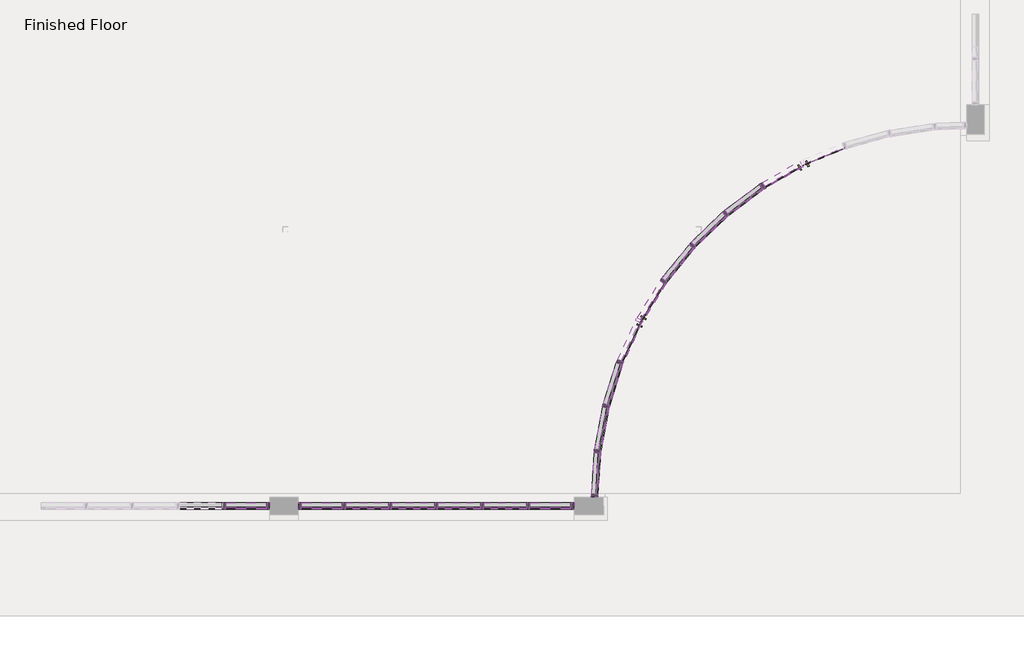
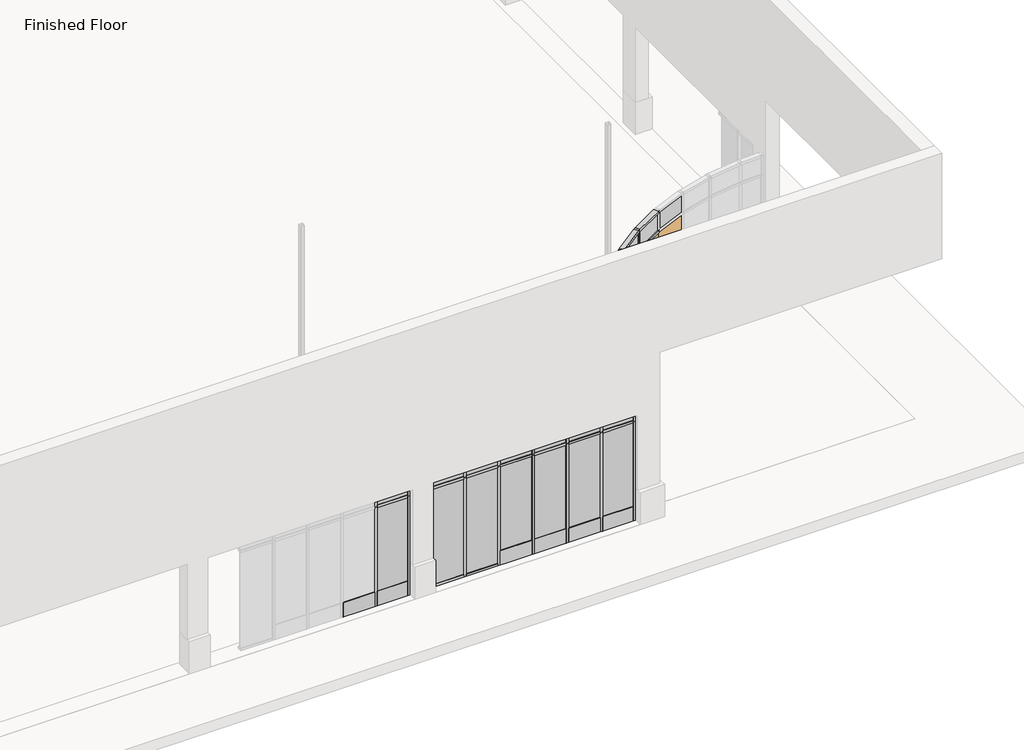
# One storey, part 3 of 6: 80 members, 30 plates, 4 doors.
"""IFC4 building model written with IfcOpenShell, lengths in millimetres."""

from ifc_helpers import new_model, si_unit, origin, place, context, project, spatial, transform, mapped, element, save
from components import curtain_wall_sgl_glass_curtain_wall_sgl_glass_1c17b042, curtain_wall_sgl_glass_curtain_wall_sgl_glass_0d6a1b13, member_d2e7e466, member_7db1855a, member_a397ac22, member_d702d02f, member_57980dff, member_b5e65c95, member_069002c8, member_a75f139a, member_8a16213d, member_a608d019, member_830eb86c, member_c5eeba41, member_bfce15ef, member_c839a1ff, member_1fc1b455, member_c17f1be2, member_ad567e07, member_6ad7a984, member_7c546d85, member_6e77e263, rectangular_mullion_tall_mullion_dc5872ae, rectangular_mullion_tall_mullion_643de06f, system_panel_glazed_00e77426, system_panel_glazed_d5ca8191, system_panel_glazed_a343adf7, system_panel_glazed_9d8b6f53, system_panel_glazed_2d85ec54, system_panel_glazed_0eb5479c, system_panel_glazed_0c1d7574, system_panel_glazed_f449fc8c, system_panel_glazed_61942ae4, system_panel_glazed_9254fb36

model = new_model("IFC4")

# Units and contexts
model_context = context("Model", 3, world=origin())
ifc_project = project(units=[si_unit("LENGTHUNIT", "METRE", prefix="MILLI")], contexts=[model_context])

# Site, building, storey
site = spatial("IfcSite", under=ifc_project)
building = spatial("IfcBuilding", under=site)
storey = spatial("IfcBuildingStorey", under=building, Name="Finished Floor", Elevation=0.0)

# Doors
placement = place(None, origin())
curtain_wall_sgl_glass_curtain_wall_sgl_glass_shape = curtain_wall_sgl_glass_curtain_wall_sgl_glass_1c17b042(model_context)
element("IfcDoor", 1, ObjectType="Curtain Wall Sgl Glass : Curtain Wall Sgl Glass", at=placement, inside=storey, context=model_context, shape_type="MappedRepresentation", body=[
    mapped(curtain_wall_sgl_glass_curtain_wall_sgl_glass_shape, transform((12205.5770222, -10167.6142626, 0.0), x_axis=(0.5285884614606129, 0.8488782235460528, 0.0), y_axis=(-0.8488782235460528, 0.5285884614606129, 0.0), z_axis=(0.0, 0.0, 1.0))),
])
element("IfcDoor", 2, ObjectType="Curtain Wall Sgl Glass : Curtain Wall Sgl Glass", at=placement, inside=storey, context=model_context, shape_type="MappedRepresentation", body=[
    mapped(curtain_wall_sgl_glass_curtain_wall_sgl_glass_shape, transform((15623.3358798, -7250.0903056, 0.0), x_axis=(0.9229809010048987, 0.38484575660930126, 0.0), y_axis=(-0.38484575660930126, 0.9229809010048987, 0.0), z_axis=(0.0, 0.0, 1.0))),
])
curtain_wall_sgl_glass_curtain_wall_sgl_glass_2_shape = curtain_wall_sgl_glass_curtain_wall_sgl_glass_0d6a1b13(model_context)
element("IfcDoor", 3, ObjectType="Curtain Wall Sgl Glass : Curtain Wall Sgl Glass", at=placement, inside=storey, context=model_context, shape_type="MappedRepresentation", body=[
    mapped(curtain_wall_sgl_glass_curtain_wall_sgl_glass_2_shape, transform((11787.050244, -10942.8089583, 0.0), x_axis=(-0.4197529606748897, -0.9076383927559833, 0.0), y_axis=(0.9076383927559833, -0.4197529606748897, 0.0), z_axis=(0.0, 0.0, 1.0))),
])
element("IfcDoor", 4, ObjectType="Curtain Wall Sgl Glass : Curtain Wall Sgl Glass", at=placement, inside=storey, context=model_context, shape_type="MappedRepresentation", body=[
    mapped(curtain_wall_sgl_glass_curtain_wall_sgl_glass_2_shape, transform((14832.7491415, -7638.7599462, 0.0), x_axis=(-0.8684126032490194, -0.4958422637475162, 0.0), y_axis=(0.4958422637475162, -0.8684126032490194, 0.0), z_axis=(0.0, 0.0, 1.0))),
])

# Members
member_shape = member_d2e7e466(model_context)
element("IfcMember", 5, ObjectType="Rectangular Mullion : 2.5\" x 5\" rectangular", at=placement, inside=storey, context=model_context, shape_type="MappedRepresentation", body=[
    mapped(member_shape, transform((8881.2647279, -14230.7188057, 3048.0), x_axis=(0.0, 0.0, 1.0), y_axis=(0.0, 1.0, 0.0), z_axis=(-1.0, 0.0, 0.0))),
])
element("IfcMember", 6, ObjectType="Rectangular Mullion : 2.5\" x 5\" rectangular", at=placement, inside=storey, context=model_context, shape_type="MappedRepresentation", body=[
    mapped(member_shape, transform((7966.8647279, -14230.7188057, 3048.0), x_axis=(0.0, 0.0, 1.0), y_axis=(0.0, 1.0, 0.0), z_axis=(-1.0, 0.0, 0.0))),
])
element("IfcMember", 7, ObjectType="Rectangular Mullion : 2.5\" x 5\" rectangular", at=placement, inside=storey, context=model_context, shape_type="MappedRepresentation", body=[
    mapped(member_shape, transform((7052.4647279, -14230.7188057, 3048.0), x_axis=(0.0, 0.0, 1.0), y_axis=(0.0, 1.0, 0.0), z_axis=(-1.0, 0.0, 0.0))),
])
element("IfcMember", 8, ObjectType="Rectangular Mullion : 2.5\" x 5\" rectangular", at=placement, inside=storey, context=model_context, shape_type="MappedRepresentation", body=[
    mapped(member_shape, transform((6138.0647279, -14230.7188057, 3048.0), x_axis=(0.0, 0.0, 1.0), y_axis=(0.0, 1.0, 0.0), z_axis=(-1.0, 0.0, 0.0))),
])
member_2_shape = member_7db1855a(model_context)
element("IfcMember", 9, ObjectType="Rectangular Mullion : 2.5\" x 5\" rectangular", at=placement, inside=storey, context=model_context, shape_type="MappedRepresentation", body=[
    mapped(member_2_shape, transform((8881.2647279, -14230.7188057, 2813.05), x_axis=(0.0, 0.0, 1.0), y_axis=(0.0, 1.0, 0.0), z_axis=(-1.0, 0.0, 0.0))),
])
element("IfcMember", 10, ObjectType="Rectangular Mullion : 2.5\" x 5\" rectangular", at=placement, inside=storey, context=model_context, shape_type="MappedRepresentation", body=[
    mapped(member_2_shape, transform((7966.8647279, -14230.7188057, 2813.05), x_axis=(0.0, 0.0, 1.0), y_axis=(0.0, 1.0, 0.0), z_axis=(-1.0, 0.0, 0.0))),
])
element("IfcMember", 11, ObjectType="Rectangular Mullion : 2.5\" x 5\" rectangular", at=placement, inside=storey, context=model_context, shape_type="MappedRepresentation", body=[
    mapped(member_2_shape, transform((7052.4647279, -14230.7188057, 2813.05), x_axis=(0.0, 0.0, 1.0), y_axis=(0.0, 1.0, 0.0), z_axis=(-1.0, 0.0, 0.0))),
])
element("IfcMember", 12, ObjectType="Rectangular Mullion : 2.5\" x 5\" rectangular", at=placement, inside=storey, context=model_context, shape_type="MappedRepresentation", body=[
    mapped(member_2_shape, transform((6138.0647279, -14230.7188057, 2813.05), x_axis=(0.0, 0.0, 1.0), y_axis=(0.0, 1.0, 0.0), z_axis=(-1.0, 0.0, 0.0))),
])
element("IfcMember", 13, ObjectType="Rectangular Mullion : 2.5\" x 5\" rectangular", at=placement, inside=storey, context=model_context, shape_type="MappedRepresentation", body=[
    mapped(member_shape, transform((6988.9647279, -14230.7188057, 0.0), x_axis=(0.0, 0.0, -1.0), y_axis=(0.0, 1.0, 0.0), z_axis=(1.0, 0.0, 0.0))),
])
member_3_shape = member_a397ac22(model_context)
element("IfcMember", 14, ObjectType="Rectangular Mullion : 2.5\" x 5\" rectangular", at=placement, inside=storey, context=model_context, shape_type="MappedRepresentation", body=[
    mapped(member_3_shape, transform((11304.1839181, -12274.3728565, 3048.0), x_axis=(0.0, 0.0, 1.0), y_axis=(0.9828172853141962, -0.18458110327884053, 0.0), z_axis=(0.18458110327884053, 0.9828172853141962, 0.0))),
])
element("IfcMember", 15, ObjectType="Rectangular Mullion : 2.5\" x 5\" rectangular", at=placement, inside=storey, context=model_context, shape_type="MappedRepresentation", body=[
    mapped(member_3_shape, transform((11578.8078606, -11402.4322971, 3048.0), x_axis=(0.0, 0.0, 1.0), y_axis=(0.9525135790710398, -0.3044961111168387, 0.0), z_axis=(0.3044961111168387, 0.9525135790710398, 0.0))),
])
element("IfcMember", 16, ObjectType="Rectangular Mullion : 2.5\" x 5\" rectangular", at=placement, inside=storey, context=model_context, shape_type="MappedRepresentation", body=[
    mapped(member_3_shape, transform((13011.1238909, -9080.0956549, 3048.0), x_axis=(0.0, 0.0, 1.0), y_axis=(0.7771319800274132, -0.6293376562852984, 0.0), z_axis=(0.6293376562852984, 0.7771319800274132, 0.0))),
])
element("IfcMember", 17, ObjectType="Rectangular Mullion : 2.5\" x 5\" rectangular", at=placement, inside=storey, context=model_context, shape_type="MappedRepresentation", body=[
    mapped(member_3_shape, transform((13667.0187553, -8443.3063838, 3048.0), x_axis=(0.0, 0.0, 1.0), y_axis=(0.6934972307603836, -0.7204592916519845, 0.0), z_axis=(0.7204592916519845, 0.6934972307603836, 0.0))),
])
element("IfcMember", 18, ObjectType="Rectangular Mullion : 2.5\" x 5\" rectangular", at=placement, inside=storey, context=model_context, shape_type="MappedRepresentation", body=[
    mapped(member_3_shape, transform((14396.5070884, -7892.356821, 3048.0), x_axis=(0.0, 0.0, 1.0), y_axis=(0.5992534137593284, -0.8005593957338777, 0.0), z_axis=(0.8005593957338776, 0.5992534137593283, 0.0))),
])
element("IfcMember", 19, ObjectType="Rectangular Mullion : 2.5\" x 5\" rectangular", at=placement, inside=storey, context=model_context, shape_type="MappedRepresentation", body=[
    mapped(member_3_shape, transform((11147.1238574, -13110.6520846, 0.0), x_axis=(0.0, 0.0, -1.0), y_axis=(0.9828172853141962, -0.1845811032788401, 0.0), z_axis=(-0.1845811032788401, -0.9828172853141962, 0.0))),
])
element("IfcMember", 20, ObjectType="Rectangular Mullion : 2.5\" x 5\" rectangular", at=placement, inside=storey, context=model_context, shape_type="MappedRepresentation", body=[
    mapped(member_3_shape, transform((11319.7121197, -12212.9261015, 0.0), x_axis=(0.0, 0.0, -1.0), y_axis=(0.9525135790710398, -0.3044961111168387, 0.0), z_axis=(-0.3044961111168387, -0.9525135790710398, 0.0))),
])
element("IfcMember", 21, ObjectType="Rectangular Mullion : 2.5\" x 5\" rectangular", at=placement, inside=storey, context=model_context, shape_type="MappedRepresentation", body=[
    mapped(member_3_shape, transform((12475.6204792, -9741.3572567, 0.0), x_axis=(0.0, 0.0, -1.0), y_axis=(0.7771319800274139, -0.6293376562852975, 0.0), z_axis=(-0.6293376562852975, -0.7771319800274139, 0.0))),
])
element("IfcMember", 22, ObjectType="Rectangular Mullion : 2.5\" x 5\" rectangular", at=placement, inside=storey, context=model_context, shape_type="MappedRepresentation", body=[
    mapped(member_3_shape, transform((13053.979944, -9033.4031774, 0.0), x_axis=(0.0, 0.0, -1.0), y_axis=(0.6934972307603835, -0.7204592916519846, 0.0), z_axis=(-0.7204592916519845, -0.6934972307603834, 0.0))),
])
element("IfcMember", 23, ObjectType="Rectangular Mullion : 2.5\" x 5\" rectangular", at=placement, inside=storey, context=model_context, shape_type="MappedRepresentation", body=[
    mapped(member_3_shape, transform((13715.3110986, -8402.2615508, 0.0), x_axis=(0.0, 0.0, -1.0), y_axis=(0.5992534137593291, -0.8005593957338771, 0.0), z_axis=(-0.8005593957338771, -0.5992534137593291, 0.0))),
])
member_4_shape = member_d702d02f(model_context)
element("IfcMember", 24, ObjectType="Rectangular Mullion : 2.5\" x 5\" rectangular", at=placement, inside=storey, context=model_context, shape_type="MappedRepresentation", body=[
    mapped(member_4_shape, transform((11304.1839181, -12274.3728565, 2470.15), x_axis=(0.0, 0.0, 1.0), y_axis=(0.9828172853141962, -0.18458110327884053, 0.0), z_axis=(0.18458110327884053, 0.9828172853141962, 0.0))),
])
element("IfcMember", 25, ObjectType="Rectangular Mullion : 2.5\" x 5\" rectangular", at=placement, inside=storey, context=model_context, shape_type="MappedRepresentation", body=[
    mapped(member_4_shape, transform((11578.8078606, -11402.4322971, 2470.15), x_axis=(0.0, 0.0, 1.0), y_axis=(0.9525135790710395, -0.3044961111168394, 0.0), z_axis=(0.30449611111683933, 0.9525135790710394, 0.0))),
])
element("IfcMember", 26, ObjectType="Rectangular Mullion : 2.5\" x 5\" rectangular", at=placement, inside=storey, context=model_context, shape_type="MappedRepresentation", body=[
    mapped(member_4_shape, transform((13011.1238909, -9080.0956549, 2470.15), x_axis=(0.0, 0.0, 1.0), y_axis=(0.7771319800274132, -0.6293376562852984, 0.0), z_axis=(0.6293376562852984, 0.7771319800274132, 0.0))),
])
element("IfcMember", 27, ObjectType="Rectangular Mullion : 2.5\" x 5\" rectangular", at=placement, inside=storey, context=model_context, shape_type="MappedRepresentation", body=[
    mapped(member_4_shape, transform((13667.0187553, -8443.3063838, 2470.15), x_axis=(0.0, 0.0, 1.0), y_axis=(0.6934972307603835, -0.7204592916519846, 0.0), z_axis=(0.7204592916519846, 0.6934972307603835, 0.0))),
])
element("IfcMember", 28, ObjectType="Rectangular Mullion : 2.5\" x 5\" rectangular", at=placement, inside=storey, context=model_context, shape_type="MappedRepresentation", body=[
    mapped(member_4_shape, transform((14396.5070884, -7892.356821, 2470.15), x_axis=(0.0, 0.0, 1.0), y_axis=(0.5992534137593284, -0.8005593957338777, 0.0), z_axis=(0.8005593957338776, 0.5992534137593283, 0.0))),
])
member_5_shape = member_57980dff(model_context)
element("IfcMember", 29, ObjectType="Rectangular Mullion : 2.5\" x 5\" rectangular", at=placement, inside=storey, context=model_context, shape_type="MappedRepresentation", body=[
    mapped(member_5_shape, transform((11141.2634073, -13141.8565334, 0.0), x_axis=(0.12344803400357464, 0.9923510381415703, 0.0), y_axis=(0.9923510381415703, -0.12344803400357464, 0.0), z_axis=(0.0, 0.0, -1.0))),
])
element("IfcMember", 30, ObjectType="Rectangular Mullion : 2.5\" x 5\" rectangular", at=placement, inside=storey, context=model_context, shape_type="MappedRepresentation", body=[
    mapped(member_5_shape, transform((11310.0443682, -12243.1684077, 0.0), x_axis=(0.24500756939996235, 0.9695211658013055, 0.0), y_axis=(0.9695211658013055, -0.24500756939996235, 0.0), z_axis=(0.0, 0.0, -1.0))),
])
element("IfcMember", 31, ObjectType="Rectangular Mullion : 2.5\" x 5\" rectangular", at=placement, inside=storey, context=model_context, shape_type="MappedRepresentation", body=[
    mapped(member_5_shape, transform((11588.4756122, -11372.189991, 0.0), x_axis=(0.3628189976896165, 0.9318596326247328, 0.0), y_axis=(0.9318596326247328, -0.3628189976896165, 0.0), z_axis=(0.0, 0.0, -1.0))),
])
element("IfcMember", 32, ObjectType="Rectangular Mullion : 2.5\" x 5\" rectangular", at=placement, inside=storey, context=model_context, shape_type="MappedRepresentation", body=[
    mapped(member_5_shape, transform((12455.6390086, -9766.031197, 0.0), x_axis=(0.5800733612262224, 0.8145642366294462, 0.0), y_axis=(0.8145642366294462, -0.5800733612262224, 0.0), z_axis=(0.0, 0.0, -1.0))),
])
element("IfcMember", 33, ObjectType="Rectangular Mullion : 2.5\" x 5\" rectangular", at=placement, inside=storey, context=model_context, shape_type="MappedRepresentation", body=[
    mapped(member_5_shape, transform((13031.1053615, -9055.4217145, 0.0), x_axis=(0.6761927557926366, 0.7367247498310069, 0.0), y_axis=(0.7367247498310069, -0.6761927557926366, 0.0), z_axis=(0.0, 0.0, -1.0))),
])
element("IfcMember", 34, ObjectType="Rectangular Mullion : 2.5\" x 5\" rectangular", at=placement, inside=storey, context=model_context, shape_type="MappedRepresentation", body=[
    mapped(member_5_shape, transform((13689.8933378, -8421.2878467, 0.0), x_axis=(0.7619678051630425, 0.6476149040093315, 0.0), y_axis=(0.6476149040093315, -0.7619678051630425, 0.0), z_axis=(0.0, 0.0, -1.0))),
])
element("IfcMember", 35, ObjectType="Rectangular Mullion : 2.5\" x 5\" rectangular", at=placement, inside=storey, context=model_context, shape_type="MappedRepresentation", body=[
    mapped(member_5_shape, transform((14421.9248492, -7873.3305251, 0.0), x_axis=(0.8360863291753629, 0.5485978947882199, 0.0), y_axis=(0.5485978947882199, -0.8360863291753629, 0.0), z_axis=(0.0, 0.0, -1.0))),
])
member_6_shape = member_b5e65c95(model_context)
element("IfcMember", 36, ObjectType="Rectangular Mullion : 2.5\" x 5\" rectangular", at=placement, inside=storey, context=model_context, shape_type="MappedRepresentation", body=[
    mapped(member_6_shape, transform((11141.2634073, -13141.8565334, 2470.15), x_axis=(0.12344803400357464, 0.9923510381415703, 0.0), y_axis=(0.9923510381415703, -0.12344803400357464, 0.0), z_axis=(0.0, 0.0, -1.0))),
])
element("IfcMember", 37, ObjectType="Rectangular Mullion : 2.5\" x 5\" rectangular", at=placement, inside=storey, context=model_context, shape_type="MappedRepresentation", body=[
    mapped(member_6_shape, transform((11310.0443682, -12243.1684077, 2470.15), x_axis=(0.2450075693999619, 0.9695211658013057, 0.0), y_axis=(0.9695211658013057, -0.2450075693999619, 0.0), z_axis=(0.0, 0.0, -1.0))),
])
element("IfcMember", 38, ObjectType="Rectangular Mullion : 2.5\" x 5\" rectangular", at=placement, inside=storey, context=model_context, shape_type="MappedRepresentation", body=[
    mapped(member_6_shape, transform((11588.4756122, -11372.189991, 2470.15), x_axis=(0.3628189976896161, 0.931859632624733, 0.0), y_axis=(0.931859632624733, -0.3628189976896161, 0.0), z_axis=(0.0, 0.0, -1.0))),
])
element("IfcMember", 39, ObjectType="Rectangular Mullion : 2.5\" x 5\" rectangular", at=placement, inside=storey, context=model_context, shape_type="MappedRepresentation", body=[
    mapped(member_6_shape, transform((12455.6390086, -9766.031197, 2470.15), x_axis=(0.5800733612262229, 0.814564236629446, 0.0), y_axis=(0.814564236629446, -0.5800733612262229, 0.0), z_axis=(0.0, 0.0, -1.0))),
])
element("IfcMember", 40, ObjectType="Rectangular Mullion : 2.5\" x 5\" rectangular", at=placement, inside=storey, context=model_context, shape_type="MappedRepresentation", body=[
    mapped(member_6_shape, transform((13031.1053615, -9055.4217145, 2470.15), x_axis=(0.6761927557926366, 0.7367247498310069, 0.0), y_axis=(0.7367247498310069, -0.6761927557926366, 0.0), z_axis=(0.0, 0.0, -1.0))),
])
element("IfcMember", 41, ObjectType="Rectangular Mullion : 2.5\" x 5\" rectangular", at=placement, inside=storey, context=model_context, shape_type="MappedRepresentation", body=[
    mapped(member_6_shape, transform((13689.8933378, -8421.2878467, 2470.15), x_axis=(0.7619678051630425, 0.6476149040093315, 0.0), y_axis=(0.6476149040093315, -0.7619678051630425, 0.0), z_axis=(0.0, 0.0, -1.0))),
])
element("IfcMember", 42, ObjectType="Rectangular Mullion : 2.5\" x 5\" rectangular", at=placement, inside=storey, context=model_context, shape_type="MappedRepresentation", body=[
    mapped(member_6_shape, transform((14421.9248492, -7873.3305251, 2470.15), x_axis=(0.8360863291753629, 0.5485978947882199, 0.0), y_axis=(0.5485978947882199, -0.8360863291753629, 0.0), z_axis=(0.0, 0.0, -1.0))),
])
member_7_shape = member_069002c8(model_context)
element("IfcMember", 43, ObjectType="Rectangular Mullion : 2.5\" x 5\" rectangular", at=placement, inside=storey, context=model_context, shape_type="MappedRepresentation", body=[
    mapped(member_7_shape, transform((9763.9147279, -14230.7188057, 0.0), x_axis=(-1.0, 0.0, 0.0), y_axis=(0.0, 1.0, 0.0), z_axis=(0.0, 0.0, -1.0))),
])
element("IfcMember", 44, ObjectType="Rectangular Mullion : 2.5\" x 5\" rectangular", at=placement, inside=storey, context=model_context, shape_type="MappedRepresentation", body=[
    mapped(member_7_shape, transform((8849.5147279, -14230.7188057, 0.0), x_axis=(-1.0, 0.0, 0.0), y_axis=(0.0, 1.0, 0.0), z_axis=(0.0, 0.0, -1.0))),
])
element("IfcMember", 45, ObjectType="Rectangular Mullion : 2.5\" x 5\" rectangular", at=placement, inside=storey, context=model_context, shape_type="MappedRepresentation", body=[
    mapped(member_7_shape, transform((7935.1147279, -14230.7188057, 0.0), x_axis=(-1.0, 0.0, 0.0), y_axis=(0.0, 1.0, 0.0), z_axis=(0.0, 0.0, -1.0))),
])
element("IfcMember", 46, ObjectType="Rectangular Mullion : 2.5\" x 5\" rectangular", at=placement, inside=storey, context=model_context, shape_type="MappedRepresentation", body=[
    mapped(member_7_shape, transform((3718.7147279, -14230.7188057, 0.0), x_axis=(-1.0, 0.0, 0.0), y_axis=(0.0, 1.0, 0.0), z_axis=(0.0, 0.0, -1.0))),
])
element("IfcMember", 47, ObjectType="Rectangular Mullion : 2.5\" x 5\" rectangular", at=placement, inside=storey, context=model_context, shape_type="MappedRepresentation", body=[
    mapped(member_7_shape, transform((7020.7147279, -14230.7188057, 0.0), x_axis=(-1.0, 0.0, 0.0), y_axis=(0.0, 1.0, 0.0), z_axis=(0.0, 0.0, -1.0))),
])
element("IfcMember", 48, ObjectType="Rectangular Mullion : 2.5\" x 5\" rectangular", at=placement, inside=storey, context=model_context, shape_type="MappedRepresentation", body=[
    mapped(member_7_shape, transform((6106.3147279, -14230.7188057, 0.0), x_axis=(-1.0, 0.0, 0.0), y_axis=(0.0, 1.0, 0.0), z_axis=(0.0, 0.0, -1.0))),
])
member_8_shape = member_a75f139a(model_context)
element("IfcMember", 49, ObjectType="Rectangular Mullion : 2.5\" x 5\" rectangular", at=placement, inside=storey, context=model_context, shape_type="MappedRepresentation", body=[
    mapped(member_8_shape, transform((9763.9147279, -14230.7188057, 2813.05), x_axis=(-1.0, 0.0, 0.0), y_axis=(0.0, 1.0, 0.0), z_axis=(0.0, 0.0, -1.0))),
])
element("IfcMember", 50, ObjectType="Rectangular Mullion : 2.5\" x 5\" rectangular", at=placement, inside=storey, context=model_context, shape_type="MappedRepresentation", body=[
    mapped(member_8_shape, transform((8849.5147279, -14230.7188057, 2813.05), x_axis=(-1.0, 0.0, 0.0), y_axis=(0.0, 1.0, 0.0), z_axis=(0.0, 0.0, -1.0))),
])
element("IfcMember", 51, ObjectType="Rectangular Mullion : 2.5\" x 5\" rectangular", at=placement, inside=storey, context=model_context, shape_type="MappedRepresentation", body=[
    mapped(member_8_shape, transform((7935.1147279, -14230.7188057, 2813.05), x_axis=(-1.0, 0.0, 0.0), y_axis=(0.0, 1.0, 0.0), z_axis=(0.0, 0.0, -1.0))),
])
element("IfcMember", 52, ObjectType="Rectangular Mullion : 2.5\" x 5\" rectangular", at=placement, inside=storey, context=model_context, shape_type="MappedRepresentation", body=[
    mapped(member_8_shape, transform((3718.7147279, -14230.7188057, 2813.05), x_axis=(-1.0, 0.0, 0.0), y_axis=(0.0, 1.0, 0.0), z_axis=(0.0, 0.0, -1.0))),
])
element("IfcMember", 53, ObjectType="Rectangular Mullion : 2.5\" x 5\" rectangular", at=placement, inside=storey, context=model_context, shape_type="MappedRepresentation", body=[
    mapped(member_8_shape, transform((7020.7147279, -14230.7188057, 2813.05), x_axis=(-1.0, 0.0, 0.0), y_axis=(0.0, 1.0, 0.0), z_axis=(0.0, 0.0, -1.0))),
])
element("IfcMember", 54, ObjectType="Rectangular Mullion : 2.5\" x 5\" rectangular", at=placement, inside=storey, context=model_context, shape_type="MappedRepresentation", body=[
    mapped(member_8_shape, transform((6106.3147279, -14230.7188057, 2813.05), x_axis=(-1.0, 0.0, 0.0), y_axis=(0.0, 1.0, 0.0), z_axis=(0.0, 0.0, -1.0))),
])
member_9_shape = member_8a16213d(model_context)
element("IfcMember", 55, ObjectType="Rectangular Mullion : 2.5\" x 5\" rectangular", at=placement, inside=storey, context=model_context, shape_type="MappedRepresentation", body=[
    mapped(member_9_shape, transform((5191.9147279, -14230.7188057, 0.0), x_axis=(-1.0, 0.0, 0.0), y_axis=(0.0, 1.0, 0.0), z_axis=(0.0, 0.0, -1.0))),
])
member_10_shape = member_a608d019(model_context)
element("IfcMember", 56, ObjectType="Rectangular Mullion : 2.5\" x 5\" rectangular", at=placement, inside=storey, context=model_context, shape_type="MappedRepresentation", body=[
    mapped(member_10_shape, transform((5191.9147279, -14230.7188057, 2813.05), x_axis=(-1.0, 0.0, 0.0), y_axis=(0.0, 1.0, 0.0), z_axis=(0.0, 0.0, -1.0))),
])
element("IfcMember", 57, ObjectType="Rectangular Mullion : 2.5\" x 5\" rectangular", at=placement, inside=storey, context=model_context, shape_type="MappedRepresentation", body=[
    mapped(member_10_shape, transform((10678.3147279, -14230.7188057, 3048.0), x_axis=(1.0, 0.0, 0.0), y_axis=(0.0, 1.0, 0.0), z_axis=(0.0, 0.0, 1.0))),
])
element("IfcMember", 58, ObjectType="Rectangular Mullion : 2.5\" x 5\" rectangular", at=placement, inside=storey, context=model_context, shape_type="MappedRepresentation", body=[
    mapped(member_10_shape, transform((4633.1147279, -14230.7188057, 3048.0), x_axis=(1.0, 0.0, 0.0), y_axis=(0.0, 1.0, 0.0), z_axis=(0.0, 0.0, 1.0))),
])
element("IfcMember", 59, ObjectType="Rectangular Mullion : 2.5\" x 5\" rectangular", at=placement, inside=storey, context=model_context, shape_type="MappedRepresentation", body=[
    mapped(member_9_shape, transform((10678.3147279, -14230.7188057, 2813.05), x_axis=(1.0, 0.0, 0.0), y_axis=(0.0, 1.0, 0.0), z_axis=(0.0, 0.0, 1.0))),
])
element("IfcMember", 60, ObjectType="Rectangular Mullion : 2.5\" x 5\" rectangular", at=placement, inside=storey, context=model_context, shape_type="MappedRepresentation", body=[
    mapped(member_9_shape, transform((4633.1147279, -14230.7188057, 2813.05), x_axis=(1.0, 0.0, 0.0), y_axis=(0.0, 1.0, 0.0), z_axis=(0.0, 0.0, 1.0))),
])
member_11_shape = member_830eb86c(model_context)
element("IfcMember", 61, ObjectType="Rectangular Mullion : 2.5\" x 5\" rectangular", at=placement, inside=storey, context=model_context, shape_type="MappedRepresentation", body=[
    mapped(member_11_shape, transform((11084.7147279, -14054.5063057, 3048.0), x_axis=(-0.06184238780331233, -0.9980859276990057, 0.0), y_axis=(0.9980859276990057, -0.06184238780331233, 0.0), z_axis=(0.0, 0.0, 1.0))),
])
member_12_shape = member_c5eeba41(model_context)
element("IfcMember", 62, ObjectType="Rectangular Mullion : 2.5\" x 5\" rectangular", at=placement, inside=storey, context=model_context, shape_type="MappedRepresentation", body=[
    mapped(member_12_shape, transform((11084.7147279, -14054.5063057, 2470.15), x_axis=(-0.061842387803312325, -0.9980859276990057, 0.0), y_axis=(0.9980859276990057, -0.061842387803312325, 0.0), z_axis=(0.0, 0.0, 1.0))),
])
member_13_shape = member_bfce15ef(model_context)
element("IfcMember", 63, ObjectType="Rectangular Mullion : 2.5\" x 5\" rectangular", at=placement, inside=storey, context=model_context, shape_type="MappedRepresentation", body=[
    mapped(member_13_shape, transform((11088.6417196, -13991.1278492, 0.0), x_axis=(0.0, 0.0, -1.0), y_axis=(0.9980859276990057, -0.06184238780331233, 0.0), z_axis=(-0.06184238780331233, -0.9980859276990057, 0.0))),
])
member_14_shape = member_c839a1ff(model_context)
element("IfcMember", 64, ObjectType="Rectangular Mullion : 2.5\" x 5\" rectangular", at=placement, inside=storey, context=model_context, shape_type="MappedRepresentation", body=[
    mapped(member_14_shape, transform((11139.2999115, -13173.5457616, 3048.0), x_axis=(0.0, 0.0, 1.0), y_axis=(0.9980859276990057, -0.06184238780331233, 0.0), z_axis=(0.06184238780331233, 0.9980859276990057, 0.0))),
])
member_15_shape = member_1fc1b455(model_context)
element("IfcMember", 65, ObjectType="Rectangular Mullion : 2.5\" x 5\" rectangular", at=placement, inside=storey, context=model_context, shape_type="MappedRepresentation", body=[
    mapped(member_15_shape, transform((11139.2999115, -13173.5457616, 2470.15), x_axis=(0.0, 0.0, 1.0), y_axis=(0.9980859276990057, -0.06184238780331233, 0.0), z_axis=(0.06184238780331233, 0.9980859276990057, 0.0))),
])
member_16_shape = member_c17f1be2(model_context)
element("IfcMember", 66, ObjectType="Rectangular Mullion : 2.5\" x 5\" rectangular", at=placement, inside=storey, context=model_context, shape_type="MappedRepresentation", body=[
    mapped(member_16_shape, transform((5255.4147279, -14230.7188057, 3048.0), x_axis=(0.0, 0.0, 1.0), y_axis=(0.0, 1.0, 0.0), z_axis=(-1.0, 0.0, 0.0))),
])
element("IfcMember", 67, ObjectType="Rectangular Mullion : 2.5\" x 5\" rectangular", at=placement, inside=storey, context=model_context, shape_type="MappedRepresentation", body=[
    mapped(member_16_shape, transform((9795.6647279, -14230.7188057, 3048.0), x_axis=(0.0, 0.0, 1.0), y_axis=(0.0, 1.0, 0.0), z_axis=(-1.0, 0.0, 0.0))),
])
member_17_shape = member_ad567e07(model_context)
element("IfcMember", 68, ObjectType="Rectangular Mullion : 2.5\" x 5\" rectangular", at=placement, inside=storey, context=model_context, shape_type="MappedRepresentation", body=[
    mapped(member_17_shape, transform((9795.6647279, -14230.7188057, 2813.05), x_axis=(0.0, 0.0, 1.0), y_axis=(0.0, 1.0, 0.0), z_axis=(-1.0, 0.0, 0.0))),
])
element("IfcMember", 69, ObjectType="Rectangular Mullion : 2.5\" x 5\" rectangular", at=placement, inside=storey, context=model_context, shape_type="MappedRepresentation", body=[
    mapped(member_17_shape, transform((3750.4647279, -14230.7188057, 2813.05), x_axis=(0.0, 0.0, 1.0), y_axis=(0.0, 1.0, 0.0), z_axis=(-1.0, 0.0, 0.0))),
])
element("IfcMember", 70, ObjectType="Rectangular Mullion : 2.5\" x 5\" rectangular", at=placement, inside=storey, context=model_context, shape_type="MappedRepresentation", body=[
    mapped(member_17_shape, transform((5255.4147279, -14230.7188057, 2813.05), x_axis=(0.0, 0.0, 1.0), y_axis=(0.0, 1.0, 0.0), z_axis=(-1.0, 0.0, 0.0))),
])
element("IfcMember", 71, ObjectType="Rectangular Mullion : 2.5\" x 5\" rectangular", at=placement, inside=storey, context=model_context, shape_type="MappedRepresentation", body=[
    mapped(member_16_shape, transform((6074.5647279, -14230.7188057, 0.0), x_axis=(0.0, 0.0, -1.0), y_axis=(0.0, 1.0, 0.0), z_axis=(1.0, 0.0, 0.0))),
])
member_18_shape = member_6ad7a984(model_context)
element("IfcMember", 72, ObjectType="Rectangular Mullion : 2.5\" x 5\" rectangular", at=placement, inside=storey, context=model_context, shape_type="MappedRepresentation", body=[
    mapped(member_18_shape, transform((11958.9705629, -10571.0629636, 2470.15), x_axis=(0.0, 0.0, 1.0), y_axis=(0.9076383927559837, -0.41975296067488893, 0.0), z_axis=(0.41975296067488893, 0.9076383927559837, 0.0))),
])
element("IfcMember", 73, ObjectType="Rectangular Mullion : 2.5\" x 5\" rectangular", at=placement, inside=storey, context=model_context, shape_type="MappedRepresentation", body=[
    mapped(member_18_shape, transform((15188.4292335, -7435.675351, 2470.15), x_axis=(0.0, 0.0, 1.0), y_axis=(0.49584226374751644, -0.8684126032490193, 0.0), z_axis=(0.8684126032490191, 0.4958422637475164, 0.0))),
])
member_19_shape = member_7c546d85(model_context)
element("IfcMember", 74, ObjectType="Rectangular Mullion : 2.5\" x 5\" rectangular", at=placement, inside=storey, context=model_context, shape_type="MappedRepresentation", body=[
    mapped(member_19_shape, transform((12438.8563249, -9792.9830806, 2470.15), x_axis=(0.0, 0.0, 1.0), y_axis=(0.8488782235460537, -0.5285884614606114, 0.0), z_axis=(0.5285884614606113, 0.8488782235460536, 0.0))),
])
member_20_shape = member_6e77e263(model_context)
element("IfcMember", 75, ObjectType="Rectangular Mullion : 2.5\" x 5\" rectangular", at=placement, inside=storey, context=model_context, shape_type="MappedRepresentation", body=[
    mapped(member_20_shape, transform((11972.2977194, -10542.2454446, 2438.4), x_axis=(0.4750800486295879, 0.8799425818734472, 0.0), y_axis=(0.8799425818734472, -0.4750800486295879, 0.0), z_axis=(0.0, 0.0, -1.0))),
])
element("IfcMember", 76, ObjectType="Rectangular Mullion : 2.5\" x 5\" rectangular", at=placement, inside=storey, context=model_context, shape_type="MappedRepresentation", body=[
    mapped(member_3_shape, transform((11958.9705629, -10571.0629636, 3048.0), x_axis=(0.0, 0.0, 1.0), y_axis=(0.9076383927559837, -0.4197529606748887, 0.0), z_axis=(0.4197529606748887, 0.9076383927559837, 0.0))),
])
element("IfcMember", 77, ObjectType="Rectangular Mullion : 2.5\" x 5\" rectangular", at=placement, inside=storey, context=model_context, shape_type="MappedRepresentation", body=[
    mapped(member_3_shape, transform((15188.4292335, -7435.675351, 3048.0), x_axis=(0.0, 0.0, 1.0), y_axis=(0.4958422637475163, -0.8684126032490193, 0.0), z_axis=(0.8684126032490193, 0.4958422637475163, 0.0))),
])
element("IfcMember", 78, ObjectType="Rectangular Mullion : 2.5\" x 5\" rectangular", at=placement, inside=storey, context=model_context, shape_type="MappedRepresentation", body=[
    mapped(member_3_shape, transform((12438.8563249, -9792.9830806, 3048.0), x_axis=(0.0, 0.0, 1.0), y_axis=(0.848878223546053, -0.5285884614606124, 0.0), z_axis=(0.5285884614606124, 0.848878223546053, 0.0))),
])
rectangular_mullion_tall_mullion_shape = rectangular_mullion_tall_mullion_dc5872ae(model_context)
element("IfcMember", 79, ObjectType="Rectangular Mullion : Tall Mullion", at=placement, inside=storey, context=model_context, shape_type="MappedRepresentation", body=[
    mapped(rectangular_mullion_tall_mullion_shape, transform((9732.1647279, -14230.7188057, 0.0), x_axis=(0.0, 0.0, -1.0), y_axis=(0.0, 1.0, 0.0), z_axis=(1.0, 0.0, 0.0))),
])
element("IfcMember", 80, ObjectType="Rectangular Mullion : Tall Mullion", at=placement, inside=storey, context=model_context, shape_type="MappedRepresentation", body=[
    mapped(rectangular_mullion_tall_mullion_shape, transform((8817.7647279, -14230.7188057, 0.0), x_axis=(0.0, 0.0, -1.0), y_axis=(0.0, 1.0, 0.0), z_axis=(1.0, 0.0, 0.0))),
])
element("IfcMember", 81, ObjectType="Rectangular Mullion : Tall Mullion", at=placement, inside=storey, context=model_context, shape_type="MappedRepresentation", body=[
    mapped(rectangular_mullion_tall_mullion_shape, transform((7903.3647279, -14230.7188057, 0.0), x_axis=(0.0, 0.0, -1.0), y_axis=(0.0, 1.0, 0.0), z_axis=(1.0, 0.0, 0.0))),
])
element("IfcMember", 82, ObjectType="Rectangular Mullion : Tall Mullion", at=placement, inside=storey, context=model_context, shape_type="MappedRepresentation", body=[
    mapped(rectangular_mullion_tall_mullion_shape, transform((3686.9647279, -14230.7188057, 0.0), x_axis=(0.0, 0.0, -1.0), y_axis=(0.0, 1.0, 0.0), z_axis=(1.0, 0.0, 0.0))),
])
rectangular_mullion_tall_mullion_2_shape = rectangular_mullion_tall_mullion_643de06f(model_context)
element("IfcMember", 83, ObjectType="Rectangular Mullion : Tall Mullion", at=placement, inside=storey, context=model_context, shape_type="MappedRepresentation", body=[
    mapped(rectangular_mullion_tall_mullion_2_shape, transform((10614.8147279, -14230.7188057, 0.0), x_axis=(0.0, 0.0, -1.0), y_axis=(0.0, 1.0, 0.0), z_axis=(1.0, 0.0, 0.0))),
])
element("IfcMember", 84, ObjectType="Rectangular Mullion : Tall Mullion", at=placement, inside=storey, context=model_context, shape_type="MappedRepresentation", body=[
    mapped(rectangular_mullion_tall_mullion_2_shape, transform((4569.6147279, -14230.7188057, 0.0), x_axis=(0.0, 0.0, -1.0), y_axis=(0.0, 1.0, 0.0), z_axis=(1.0, 0.0, 0.0))),
])

# Plates
system_panel_glazed_shape = system_panel_glazed_00e77426(model_context)
element("IfcPlate", 85, ObjectType="System Panel : Glazed", at=placement, inside=storey, context=model_context, shape_type="MappedRepresentation", body=[
    mapped(system_panel_glazed_shape, transform((9306.7147279, -14230.7188057, 406.4), x_axis=(-1.0, 0.0, 0.0), y_axis=(0.0, -1.0, 0.0), z_axis=(0.0, 0.0, 1.0))),
])
element("IfcPlate", 86, ObjectType="System Panel : Glazed", at=placement, inside=storey, context=model_context, shape_type="MappedRepresentation", body=[
    mapped(system_panel_glazed_shape, transform((8392.3147279, -14230.7188057, 406.4), x_axis=(-1.0, 0.0, 0.0), y_axis=(0.0, -1.0, 0.0), z_axis=(0.0, 0.0, 1.0))),
])
element("IfcPlate", 87, ObjectType="System Panel : Glazed", at=placement, inside=storey, context=model_context, shape_type="MappedRepresentation", body=[
    mapped(system_panel_glazed_shape, transform((7477.9147279, -14230.7188057, 406.4), x_axis=(-1.0, 0.0, 0.0), y_axis=(0.0, -1.0, 0.0), z_axis=(0.0, 0.0, 1.0))),
])
system_panel_glazed_2_shape = system_panel_glazed_d5ca8191(model_context)
element("IfcPlate", 88, ObjectType="System Panel : Glazed", at=placement, inside=storey, context=model_context, shape_type="MappedRepresentation", body=[
    mapped(system_panel_glazed_2_shape, transform((9306.7147279, -14230.7188057, 2844.8), x_axis=(-1.0, 0.0, 0.0), y_axis=(0.0, -1.0, 0.0), z_axis=(0.0, 0.0, 1.0))),
])
element("IfcPlate", 89, ObjectType="System Panel : Glazed", at=placement, inside=storey, context=model_context, shape_type="MappedRepresentation", body=[
    mapped(system_panel_glazed_2_shape, transform((8392.3147279, -14230.7188057, 2844.8), x_axis=(-1.0, 0.0, 0.0), y_axis=(0.0, -1.0, 0.0), z_axis=(0.0, 0.0, 1.0))),
])
element("IfcPlate", 90, ObjectType="System Panel : Glazed", at=placement, inside=storey, context=model_context, shape_type="MappedRepresentation", body=[
    mapped(system_panel_glazed_2_shape, transform((7477.9147279, -14230.7188057, 2844.8), x_axis=(-1.0, 0.0, 0.0), y_axis=(0.0, -1.0, 0.0), z_axis=(0.0, 0.0, 1.0))),
])
element("IfcPlate", 91, ObjectType="System Panel : Glazed", at=placement, inside=storey, context=model_context, shape_type="MappedRepresentation", body=[
    mapped(system_panel_glazed_2_shape, transform((6563.5147279, -14230.7188057, 2844.8), x_axis=(-1.0, 0.0, 0.0), y_axis=(0.0, -1.0, 0.0), z_axis=(0.0, 0.0, 1.0))),
])
system_panel_glazed_3_shape = system_panel_glazed_a343adf7(model_context)
element("IfcPlate", 92, ObjectType="System Panel : Glazed", at=placement, inside=storey, context=model_context, shape_type="MappedRepresentation", body=[
    mapped(system_panel_glazed_3_shape, transform((11225.6538878, -12692.5124705, 63.5), x_axis=(0.1845811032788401, 0.9828172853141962, 0.0), y_axis=(-0.9828172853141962, 0.1845811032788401, 0.0), z_axis=(0.0, 0.0, 1.0))),
])
element("IfcPlate", 93, ObjectType="System Panel : Glazed", at=placement, inside=storey, context=model_context, shape_type="MappedRepresentation", body=[
    mapped(system_panel_glazed_3_shape, transform((11449.2599902, -11807.6791993, 63.5), x_axis=(0.3044961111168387, 0.9525135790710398, 0.0), y_axis=(-0.9525135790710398, 0.3044961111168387, 0.0), z_axis=(0.0, 0.0, 1.0))),
])
element("IfcPlate", 94, ObjectType="System Panel : Glazed", at=placement, inside=storey, context=model_context, shape_type="MappedRepresentation", body=[
    mapped(system_panel_glazed_3_shape, transform((12743.372185, -9410.7264558, 63.5), x_axis=(0.6293376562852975, 0.7771319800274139, 0.0), y_axis=(-0.7771319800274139, 0.6293376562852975, 0.0), z_axis=(0.0, 0.0, 1.0))),
])
element("IfcPlate", 95, ObjectType="System Panel : Glazed", at=placement, inside=storey, context=model_context, shape_type="MappedRepresentation", body=[
    mapped(system_panel_glazed_3_shape, transform((13360.4993496, -8738.3547806, 63.5), x_axis=(0.7204592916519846, 0.6934972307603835, 0.0), y_axis=(-0.6934972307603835, 0.7204592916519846, 0.0), z_axis=(0.0, 0.0, 1.0))),
])
element("IfcPlate", 96, ObjectType="System Panel : Glazed", at=placement, inside=storey, context=model_context, shape_type="MappedRepresentation", body=[
    mapped(system_panel_glazed_3_shape, transform((14055.9090935, -8147.3091859, 63.5), x_axis=(0.8005593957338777, 0.5992534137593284, 0.0), y_axis=(-0.5992534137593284, 0.8005593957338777, 0.0), z_axis=(0.0, 0.0, 1.0))),
])
system_panel_glazed_4_shape = system_panel_glazed_9d8b6f53(model_context)
element("IfcPlate", 97, ObjectType="System Panel : Glazed", at=placement, inside=storey, context=model_context, shape_type="MappedRepresentation", body=[
    mapped(system_panel_glazed_4_shape, transform((6563.5147279, -14230.7188057, 63.5), x_axis=(-1.0, 0.0, 0.0), y_axis=(0.0, -1.0, 0.0), z_axis=(0.0, 0.0, 1.0))),
])
system_panel_glazed_5_shape = system_panel_glazed_2d85ec54(model_context)
element("IfcPlate", 98, ObjectType="System Panel : Glazed", at=placement, inside=storey, context=model_context, shape_type="MappedRepresentation", body=[
    mapped(system_panel_glazed_5_shape, transform((11225.6538878, -12692.5124705, 2501.9), x_axis=(0.1845811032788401, 0.9828172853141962, 0.0), y_axis=(-0.9828172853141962, 0.1845811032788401, 0.0), z_axis=(0.0, 0.0, 1.0))),
])
element("IfcPlate", 99, ObjectType="System Panel : Glazed", at=placement, inside=storey, context=model_context, shape_type="MappedRepresentation", body=[
    mapped(system_panel_glazed_5_shape, transform((11449.2599902, -11807.6791993, 2501.9), x_axis=(0.3044961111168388, 0.9525135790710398, 0.0), y_axis=(-0.9525135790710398, 0.3044961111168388, 0.0), z_axis=(0.0, 0.0, 1.0))),
])
element("IfcPlate", 100, ObjectType="System Panel : Glazed", at=placement, inside=storey, context=model_context, shape_type="MappedRepresentation", body=[
    mapped(system_panel_glazed_5_shape, transform((11780.3866658, -10957.2177178, 2501.9), x_axis=(0.41975296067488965, 0.9076383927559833, 0.0), y_axis=(-0.9076383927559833, 0.41975296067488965, 0.0), z_axis=(0.0, 0.0, 1.0))),
])
element("IfcPlate", 101, ObjectType="System Panel : Glazed", at=placement, inside=storey, context=model_context, shape_type="MappedRepresentation", body=[
    mapped(system_panel_glazed_5_shape, transform((12213.968364, -10154.1383208, 2501.9), x_axis=(0.5285884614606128, 0.8488782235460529, 0.0), y_axis=(-0.8488782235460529, 0.5285884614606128, 0.0), z_axis=(0.0, 0.0, 1.0))),
])
element("IfcPlate", 102, ObjectType="System Panel : Glazed", at=placement, inside=storey, context=model_context, shape_type="MappedRepresentation", body=[
    mapped(system_panel_glazed_5_shape, transform((12743.372185, -9410.7264558, 2501.9), x_axis=(0.6293376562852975, 0.7771319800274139, 0.0), y_axis=(-0.7771319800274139, 0.6293376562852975, 0.0), z_axis=(0.0, 0.0, 1.0))),
])
element("IfcPlate", 103, ObjectType="System Panel : Glazed", at=placement, inside=storey, context=model_context, shape_type="MappedRepresentation", body=[
    mapped(system_panel_glazed_5_shape, transform((13360.4993496, -8738.3547806, 2501.9), x_axis=(0.7204592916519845, 0.6934972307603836, 0.0), y_axis=(-0.6934972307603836, 0.7204592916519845, 0.0), z_axis=(0.0, 0.0, 1.0))),
])
element("IfcPlate", 104, ObjectType="System Panel : Glazed", at=placement, inside=storey, context=model_context, shape_type="MappedRepresentation", body=[
    mapped(system_panel_glazed_5_shape, transform((14055.9090935, -8147.3091859, 2501.9), x_axis=(0.8005593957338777, 0.5992534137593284, 0.0), y_axis=(-0.5992534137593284, 0.8005593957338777, 0.0), z_axis=(0.0, 0.0, 1.0))),
])
element("IfcPlate", 105, ObjectType="System Panel : Glazed", at=placement, inside=storey, context=model_context, shape_type="MappedRepresentation", body=[
    mapped(system_panel_glazed_5_shape, transform((14818.9630914, -7646.6314422, 2501.9), x_axis=(0.8684126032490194, 0.49584226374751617, 0.0), y_axis=(-0.49584226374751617, 0.8684126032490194, 0.0), z_axis=(0.0, 0.0, 1.0))),
])
element("IfcPlate", 106, ObjectType="System Panel : Glazed", at=placement, inside=storey, context=model_context, shape_type="MappedRepresentation", body=[
    mapped(system_panel_glazed_5_shape, transform((15637.9882016, -7243.9808792, 2501.9), x_axis=(0.9229809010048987, 0.3848457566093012, 0.0), y_axis=(-0.3848457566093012, 0.9229809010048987, 0.0), z_axis=(0.0, 0.0, 1.0))),
])
system_panel_glazed_6_shape = system_panel_glazed_0eb5479c(model_context)
element("IfcPlate", 107, ObjectType="System Panel : Glazed", at=placement, inside=storey, context=model_context, shape_type="MappedRepresentation", body=[
    mapped(system_panel_glazed_6_shape, transform((10205.2397279, -14230.7188057, 406.4), x_axis=(-1.0, 0.0, 0.0), y_axis=(0.0, -1.0, 0.0), z_axis=(0.0, 0.0, 1.0))),
])
element("IfcPlate", 108, ObjectType="System Panel : Glazed", at=placement, inside=storey, context=model_context, shape_type="MappedRepresentation", body=[
    mapped(system_panel_glazed_6_shape, transform((4160.0397279, -14230.7188057, 406.4), x_axis=(-1.0, 0.0, 0.0), y_axis=(0.0, -1.0, 0.0), z_axis=(0.0, 0.0, 1.0))),
])
system_panel_glazed_7_shape = system_panel_glazed_0c1d7574(model_context)
element("IfcPlate", 109, ObjectType="System Panel : Glazed", at=placement, inside=storey, context=model_context, shape_type="MappedRepresentation", body=[
    mapped(system_panel_glazed_7_shape, transform((10205.2397279, -14230.7188057, 2844.8), x_axis=(-1.0, 0.0, 0.0), y_axis=(0.0, -1.0, 0.0), z_axis=(0.0, 0.0, 1.0))),
])
element("IfcPlate", 110, ObjectType="System Panel : Glazed", at=placement, inside=storey, context=model_context, shape_type="MappedRepresentation", body=[
    mapped(system_panel_glazed_7_shape, transform((4160.0397279, -14230.7188057, 2844.8), x_axis=(-1.0, 0.0, 0.0), y_axis=(0.0, -1.0, 0.0), z_axis=(0.0, 0.0, 1.0))),
])
element("IfcPlate", 111, ObjectType="System Panel : Glazed", at=placement, inside=storey, context=model_context, shape_type="MappedRepresentation", body=[
    mapped(system_panel_glazed_7_shape, transform((5664.9897279, -14230.7188057, 2844.8), x_axis=(-1.0, 0.0, 0.0), y_axis=(0.0, -1.0, 0.0), z_axis=(0.0, 0.0, 1.0))),
])
system_panel_glazed_8_shape = system_panel_glazed_f449fc8c(model_context)
element("IfcPlate", 112, ObjectType="System Panel : Glazed", at=placement, inside=storey, context=model_context, shape_type="MappedRepresentation", body=[
    mapped(system_panel_glazed_8_shape, transform((11113.9708155, -13582.3368054, 63.5), x_axis=(0.061842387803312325, 0.9980859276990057, 0.0), y_axis=(-0.9980859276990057, 0.061842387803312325, 0.0), z_axis=(0.0, 0.0, 1.0))),
])
system_panel_glazed_9_shape = system_panel_glazed_61942ae4(model_context)
element("IfcPlate", 113, ObjectType="System Panel : Glazed", at=placement, inside=storey, context=model_context, shape_type="MappedRepresentation", body=[
    mapped(system_panel_glazed_9_shape, transform((5664.9897279, -14230.7188057, 63.5), x_axis=(-1.0, 0.0, 0.0), y_axis=(0.0, -1.0, 0.0), z_axis=(0.0, 0.0, 1.0))),
])
system_panel_glazed_10_shape = system_panel_glazed_9254fb36(model_context)
element("IfcPlate", 114, ObjectType="System Panel : Glazed", at=placement, inside=storey, context=model_context, shape_type="MappedRepresentation", body=[
    mapped(system_panel_glazed_10_shape, transform((11113.9708155, -13582.3368054, 2501.9), x_axis=(0.06184238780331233, 0.9980859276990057, 0.0), y_axis=(-0.9980859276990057, 0.06184238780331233, 0.0), z_axis=(0.0, 0.0, 1.0))),
])

save(model, "model.ifc")
